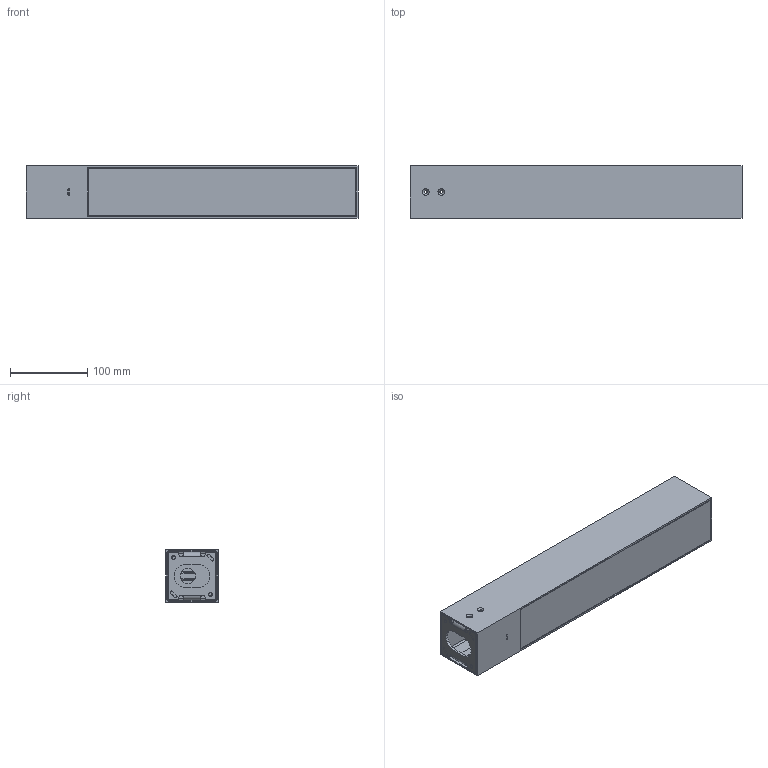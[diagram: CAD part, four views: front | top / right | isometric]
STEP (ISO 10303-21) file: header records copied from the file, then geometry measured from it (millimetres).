
FILE_DESCRIPTION((''),'2;1');
FILE_NAME('C024_P0007_A07_ASS_FL_SW0001','2025-07-23T11:19:19',('Piccioli'),(''),'CREO PARAMETRIC BY PTC INC, 2025010','CREO PARAMETRIC BY PTC INC, 2025010','');
FILE_SCHEMA(('CONFIG_CONTROL_DESIGN'));
Products named in the file (1): C024_P0007_A07_ASS_FL_SW0001
Bounding box: 430.5 x 68 x 68 mm (x, y, z)
Surface area: 232146.5 mm2 (no closed solid volume)
Topology: 0 solids, 89 shells, 374 faces, 2198 edges, 1910 vertices
Faces by surface type: plane 165, cylinder 119, cone 50, bspline 16, torus 16, sphere 8
Entity records: 62426 total; most frequent: CARTESIAN_POINT 46916, DIRECTION 3032, ORIENTED_EDGE 2562, EDGE_CURVE 2198, VERTEX_POINT 1910, AXIS2_PLACEMENT_3D 1104, VECTOR 824, LINE 824
